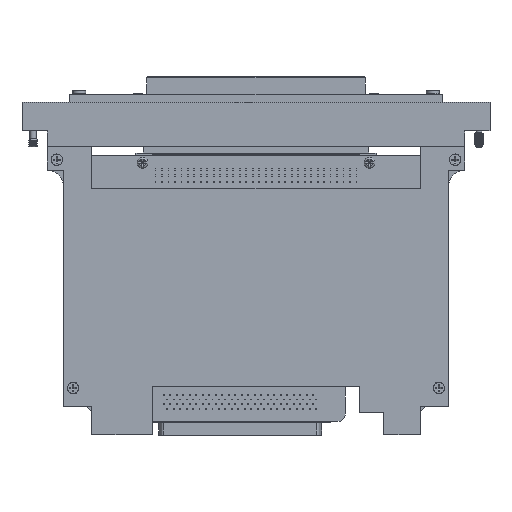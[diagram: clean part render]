
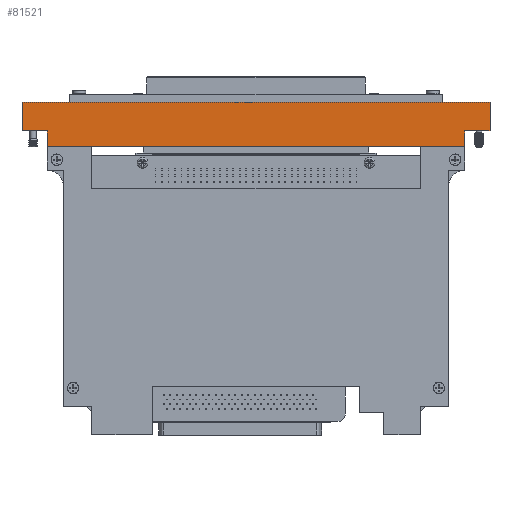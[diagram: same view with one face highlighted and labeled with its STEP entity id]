
A CAD part, left-side view. The second image highlights one B-rep face of the part: STEP entity #81521.
In plain terms, the highlighted planar face has unit normal (-1, 0, 0).
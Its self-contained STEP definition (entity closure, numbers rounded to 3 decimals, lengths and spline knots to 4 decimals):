
#1765=PLANE('',#86115);
#5818=FACE_OUTER_BOUND('',#10245,.T.);
#10245=EDGE_LOOP('',(#54920,#54921,#54922,#54923,#54924,#54925,#54926,#54927));
#15579=LINE('',#110568,#25698);
#15589=LINE('',#110627,#25708);
#15607=LINE('',#110691,#25726);
#15619=LINE('',#110722,#25738);
#15625=LINE('',#110746,#25744);
#15627=LINE('',#110749,#25746);
#15628=LINE('',#110751,#25747);
#15629=LINE('',#110753,#25748);
#25698=VECTOR('',#90876,6.44);
#25708=VECTOR('',#90948,0.245);
#25726=VECTOR('',#91012,0.44);
#25738=VECTOR('',#91040,0.44);
#25744=VECTOR('',#91070,0.245);
#25746=VECTOR('',#91074,0.3875);
#25747=VECTOR('',#91077,0.3875);
#25748=VECTOR('',#91080,7.215);
#36302=VERTEX_POINT('',#110565);
#36303=VERTEX_POINT('',#110567);
#36321=VERTEX_POINT('',#110625);
#36343=VERTEX_POINT('',#110688);
#36344=VERTEX_POINT('',#110690);
#36354=VERTEX_POINT('',#110719);
#36355=VERTEX_POINT('',#110721);
#36361=VERTEX_POINT('',#110745);
#43664=EDGE_CURVE('',#36303,#36302,#15579,.T.);
#43688=EDGE_CURVE('',#36321,#36302,#15589,.T.);
#43716=EDGE_CURVE('',#36343,#36344,#15607,.T.);
#43731=EDGE_CURVE('',#36355,#36354,#15619,.T.);
#43742=EDGE_CURVE('',#36361,#36303,#15625,.T.);
#43744=EDGE_CURVE('',#36321,#36344,#15627,.T.);
#43745=EDGE_CURVE('',#36354,#36361,#15628,.T.);
#43746=EDGE_CURVE('',#36355,#36343,#15629,.T.);
#54920=ORIENTED_EDGE('',*,*,#43688,.F.);
#54921=ORIENTED_EDGE('',*,*,#43744,.T.);
#54922=ORIENTED_EDGE('',*,*,#43716,.F.);
#54923=ORIENTED_EDGE('',*,*,#43746,.F.);
#54924=ORIENTED_EDGE('',*,*,#43731,.T.);
#54925=ORIENTED_EDGE('',*,*,#43745,.T.);
#54926=ORIENTED_EDGE('',*,*,#43742,.T.);
#54927=ORIENTED_EDGE('',*,*,#43664,.T.);
#81521=ADVANCED_FACE('',(#5818),#1765,.T.);
#86115=AXIS2_PLACEMENT_3D('',#110752,#91078,#91079);
#90876=DIRECTION('',(0.,-1.,0.));
#90948=DIRECTION('',(0.,0.,-1.));
#91012=DIRECTION('',(0.,0.,-1.));
#91040=DIRECTION('',(0.,0.,-1.));
#91070=DIRECTION('',(0.,0.,-1.));
#91074=DIRECTION('',(0.,-1.,0.));
#91077=DIRECTION('',(0.,-1.,0.));
#91078=DIRECTION('center_axis',(-1.,0.,0.));
#91079=DIRECTION('ref_axis',(0.,0.,1.));
#91080=DIRECTION('',(0.,-1.,0.));
#110565=CARTESIAN_POINT('',(-9.6087,10.6959,-0.06));
#110567=CARTESIAN_POINT('',(-9.6087,17.1359,-0.06));
#110568=CARTESIAN_POINT('',(-9.6087,10.6959,-0.06));
#110625=CARTESIAN_POINT('',(-9.6087,10.6959,0.185));
#110627=CARTESIAN_POINT('',(-9.6087,10.6959,0.625));
#110688=CARTESIAN_POINT('',(-9.6087,10.3084,0.625));
#110690=CARTESIAN_POINT('',(-9.6087,10.3084,0.185));
#110691=CARTESIAN_POINT('',(-9.6087,10.3084,0.625));
#110719=CARTESIAN_POINT('',(-9.6087,17.5234,0.185));
#110721=CARTESIAN_POINT('',(-9.6087,17.5234,0.625));
#110722=CARTESIAN_POINT('',(-9.6087,17.5234,0.625));
#110745=CARTESIAN_POINT('',(-9.6087,17.1359,0.185));
#110746=CARTESIAN_POINT('',(-9.6087,17.1359,0.625));
#110749=CARTESIAN_POINT('',(-9.6087,17.5234,0.185));
#110751=CARTESIAN_POINT('',(-9.6087,17.5234,0.185));
#110752=CARTESIAN_POINT('Origin',(-9.6087,10.6959,0.625));
#110753=CARTESIAN_POINT('',(-9.6087,17.5234,0.625));
